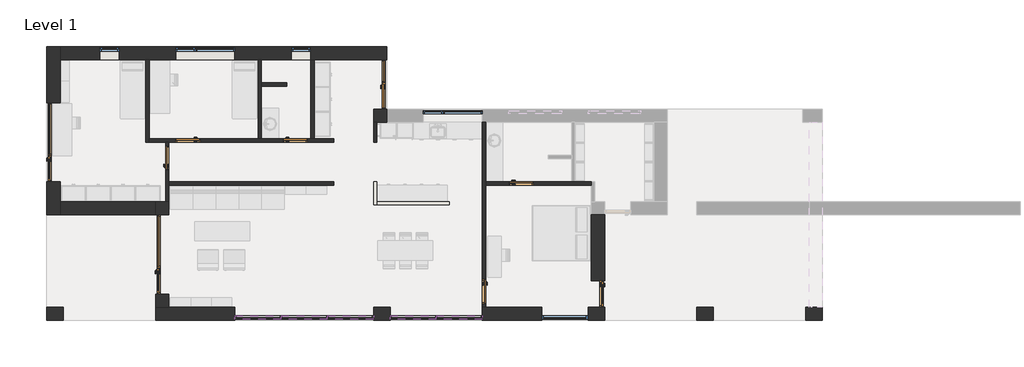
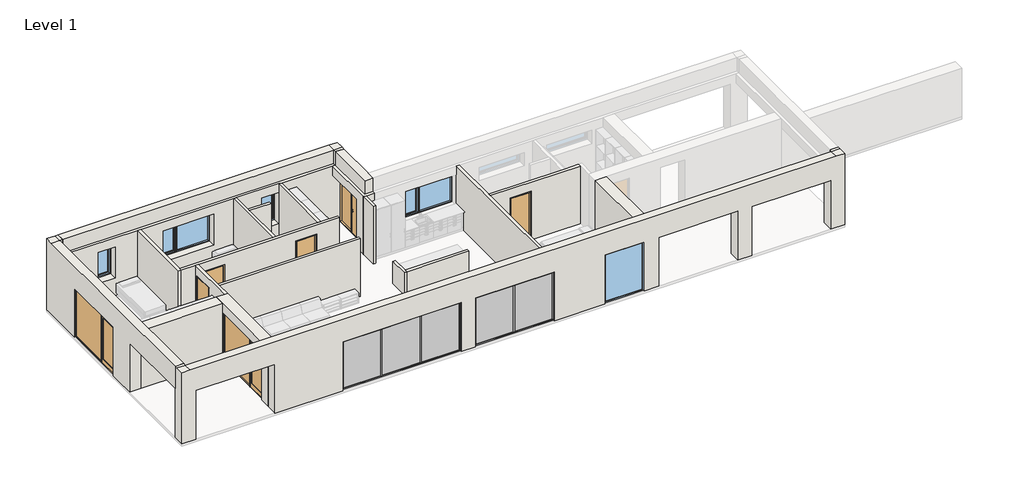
# One storey, part 1 of 2: 19 walls, 17 members, 9 doors, 5 plates, 5 windows.
"""IFC4 building model written with IfcOpenShell, lengths in millimetres."""

from ifc_helpers import new_model, si_unit, origin, origin_with_axes, place, context, project, spatial, polyline, outline, extrude, faceted_brep, transform, mapped, element, save
from components import door_1800x2200_mm_7a9b0269, ext_door_window_assembly_glass_2880x2200_mm_8e24472b, ext_single_flush_out_glass_960x2200_mm_6190eac3, int_single_flush1_900x2200_mm_083ae047, int_single_flush1_900x2200_mm_924e3177, rectangular_mullion_exterior_50x115mm_b31c03e9, rectangular_mullion_exterior_50x115mm_eaa21abb, rectangular_mullion_exterior_50x115mm_593a1a29, system_panel_exterior_glass_22mm_baca3ab9, system_panel_exterior_glass_22mm_266c4f93, fixed_1680x2200_mm_e3bfc0e5, single_light_720x1400_mm_50d61ae6, window_assembly_individual_2160x1400_mm_9c06a6f2

model = new_model("IFC4")

# Units and contexts
model_context = context("Model", 3, world=origin())
ifc_project = project(units=[si_unit("LENGTHUNIT", "METRE", prefix="MILLI")], contexts=[model_context])

# Site, building, storey
site = spatial("IfcSite", under=ifc_project)
building = spatial("IfcBuilding", under=site)
storey = spatial("IfcBuildingStorey", under=building, Name="Level 1", Elevation=0.0)

# Doors
placement = place(None, origin())
door_1800x2200_mm_shape = door_1800x2200_mm_7a9b0269(model_context)
element("IfcDoor", 1, ObjectType="Ext. Door inw. Window Assembly : 1800x2200 mm", at=placement, inside=storey, context=model_context, shape_type="MappedRepresentation", body=[
    mapped(door_1800x2200_mm_shape, transform((12120.0, 8580.0, 0.0), x_axis=(0.0, -1.0, 0.0), y_axis=(1.0, 0.0, 0.0), z_axis=(0.0, 0.0, 1.0))),
])
ext_door_window_assembly_glass_2880x2200_mm_shape = ext_door_window_assembly_glass_2880x2200_mm_8e24472b(model_context)
element("IfcDoor", 2, ObjectType="Ext. Door Window Assembly - Glass : 2880x2200 mm", at=placement, inside=storey, context=model_context, shape_type="MappedRepresentation", body=[
    mapped(ext_door_window_assembly_glass_2880x2200_mm_shape, transform((4200.0, 2400.0, 0.0), x_axis=(0.0, -1.0, 0.0), y_axis=(1.0, 0.0, 0.0), z_axis=(0.0, 0.0, 1.0))),
])
element("IfcDoor", 3, ObjectType="Ext. Door Window Assembly - Glass : 2880x2200 mm", at=placement, inside=storey, context=model_context, shape_type="MappedRepresentation", body=[
    mapped(ext_door_window_assembly_glass_2880x2200_mm_shape, transform((240.0, 6480.0, 0.0), x_axis=(0.0, -1.0, 0.0), y_axis=(1.0, 0.0, 0.0), z_axis=(0.0, 0.0, 1.0))),
])
ext_single_flush_out_glass_960x2200_mm_shape = ext_single_flush_out_glass_960x2200_mm_6190eac3(model_context)
element("IfcDoor", 4, ObjectType="Ext. Single-Flush out - Glass : 960x2200 mm", at=placement, inside=storey, context=model_context, shape_type="MappedRepresentation", body=[
    mapped(ext_single_flush_out_glass_960x2200_mm_shape, transform((20040.0, 960.0, 0.0), x_axis=(0.0, -1.0, 0.0), y_axis=(1.0, 0.0, 0.0), z_axis=(0.0, 0.0, 1.0))),
])
int_single_flush1_900x2200_mm_shape = int_single_flush1_900x2200_mm_083ae047(model_context)
element("IfcDoor", 5, ObjectType="Int. Single-Flush1 : 900x2200 mm", at=placement, inside=storey, context=model_context, shape_type="MappedRepresentation", body=[
    mapped(int_single_flush1_900x2200_mm_shape, transform((4380.0, 5910.0, 0.0), x_axis=(0.0, 1.0, 0.0), y_axis=(-1.0, 0.0, 0.0), z_axis=(0.0, 0.0, 1.0))),
])
element("IfcDoor", 6, ObjectType="Int. Single-Flush1 : 900x2200 mm", at=placement, inside=storey, context=model_context, shape_type="MappedRepresentation", body=[
    mapped(int_single_flush1_900x2200_mm_shape, transform((9030.0, 6540.0, 0.0), x_axis=(1.0, 0.0, 0.0), y_axis=(0.0, 1.0, 0.0), z_axis=(0.0, 0.0, 1.0))),
])
element("IfcDoor", 7, ObjectType="Int. Single-Flush1 : 900x2200 mm", at=placement, inside=storey, context=model_context, shape_type="MappedRepresentation", body=[
    mapped(int_single_flush1_900x2200_mm_shape, transform((17250.0, 4980.0, 0.0), x_axis=(1.0, 0.0, 0.0), y_axis=(0.0, 1.0, 0.0), z_axis=(0.0, 0.0, 1.0))),
])
element("IfcDoor", 8, ObjectType="Int. Single-Flush1 : 900x2200 mm", at=placement, inside=storey, context=model_context, shape_type="MappedRepresentation", body=[
    mapped(int_single_flush1_900x2200_mm_shape, transform((15900.0, 1050.0, 0.0), x_axis=(0.0, -1.0, 0.0), y_axis=(1.0, 0.0, 0.0), z_axis=(0.0, 0.0, 1.0))),
])
int_single_flush1_900x2200_mm_2_shape = int_single_flush1_900x2200_mm_924e3177(model_context)
element("IfcDoor", 9, ObjectType="Int. Single-Flush1 : 900x2200 mm", at=placement, inside=storey, context=model_context, shape_type="MappedRepresentation", body=[
    mapped(int_single_flush1_900x2200_mm_2_shape, transform((5130.0, 6540.0, 0.0), x_axis=(-1.0, 0.0, 0.0), y_axis=(0.0, -1.0, 0.0), z_axis=(0.0, 0.0, 1.0))),
])

# Members
rectangular_mullion_exterior_50x115mm_shape = rectangular_mullion_exterior_50x115mm_b31c03e9(model_context)
element("IfcMember", 10, ObjectType="Rectangular Mullion : Exterior - 50x115mm", at=placement, inside=storey, context=model_context, shape_type="MappedRepresentation", body=[
    mapped(rectangular_mullion_exterior_50x115mm_shape, transform((6840.0, 50.0, 2200.0), x_axis=(0.0, 0.0, 1.0), y_axis=(0.0, 1.0, 0.0), z_axis=(-1.0, 0.0, 0.0))),
])
element("IfcMember", 11, ObjectType="Rectangular Mullion : Exterior - 50x115mm", at=placement, inside=storey, context=model_context, shape_type="MappedRepresentation", body=[
    mapped(rectangular_mullion_exterior_50x115mm_shape, transform((12480.0, 50.0, 2200.0), x_axis=(0.0, 0.0, 1.0), y_axis=(0.0, 1.0, 0.0), z_axis=(-1.0, 0.0, 0.0))),
])
element("IfcMember", 12, ObjectType="Rectangular Mullion : Exterior - 50x115mm", at=placement, inside=storey, context=model_context, shape_type="MappedRepresentation", body=[
    mapped(rectangular_mullion_exterior_50x115mm_shape, transform((11880.0, 50.0, 0.0), x_axis=(0.0, 0.0, -1.0), y_axis=(0.0, 1.0, 0.0), z_axis=(1.0, 0.0, 0.0))),
])
element("IfcMember", 13, ObjectType="Rectangular Mullion : Exterior - 50x115mm", at=placement, inside=storey, context=model_context, shape_type="MappedRepresentation", body=[
    mapped(rectangular_mullion_exterior_50x115mm_shape, transform((15840.0, 50.0, 0.0), x_axis=(0.0, 0.0, -1.0), y_axis=(0.0, 1.0, 0.0), z_axis=(1.0, 0.0, 0.0))),
])
rectangular_mullion_exterior_50x115mm_2_shape = rectangular_mullion_exterior_50x115mm_eaa21abb(model_context)
element("IfcMember", 14, ObjectType="Rectangular Mullion : Exterior - 50x115mm", at=placement, inside=storey, context=model_context, shape_type="MappedRepresentation", body=[
    mapped(rectangular_mullion_exterior_50x115mm_2_shape, transform((8520.0, 50.0, 50.0), x_axis=(-1.0, 0.0, 0.0), y_axis=(0.0, 1.0, 0.0), z_axis=(0.0, 0.0, -1.0))),
])
element("IfcMember", 15, ObjectType="Rectangular Mullion : Exterior - 50x115mm", at=placement, inside=storey, context=model_context, shape_type="MappedRepresentation", body=[
    mapped(rectangular_mullion_exterior_50x115mm_2_shape, transform((10200.0, 50.0, 50.0), x_axis=(-1.0, 0.0, 0.0), y_axis=(0.0, 1.0, 0.0), z_axis=(0.0, 0.0, -1.0))),
])
element("IfcMember", 16, ObjectType="Rectangular Mullion : Exterior - 50x115mm", at=placement, inside=storey, context=model_context, shape_type="MappedRepresentation", body=[
    mapped(rectangular_mullion_exterior_50x115mm_2_shape, transform((14160.0, 50.0, 50.0), x_axis=(-1.0, 0.0, 0.0), y_axis=(0.0, 1.0, 0.0), z_axis=(0.0, 0.0, -1.0))),
])
element("IfcMember", 17, ObjectType="Rectangular Mullion : Exterior - 50x115mm", at=placement, inside=storey, context=model_context, shape_type="MappedRepresentation", body=[
    mapped(rectangular_mullion_exterior_50x115mm_shape, transform((8520.0, 50.0, 0.0), x_axis=(0.0, 0.0, -1.0), y_axis=(0.0, 1.0, 0.0), z_axis=(1.0, 0.0, 0.0))),
])
element("IfcMember", 18, ObjectType="Rectangular Mullion : Exterior - 50x115mm", at=placement, inside=storey, context=model_context, shape_type="MappedRepresentation", body=[
    mapped(rectangular_mullion_exterior_50x115mm_shape, transform((14160.0, 50.0, 0.0), x_axis=(0.0, 0.0, -1.0), y_axis=(0.0, 1.0, 0.0), z_axis=(1.0, 0.0, 0.0))),
])
element("IfcMember", 19, ObjectType="Rectangular Mullion : Exterior - 50x115mm", at=placement, inside=storey, context=model_context, shape_type="MappedRepresentation", body=[
    mapped(rectangular_mullion_exterior_50x115mm_shape, transform((10200.0, 50.0, 0.0), x_axis=(0.0, 0.0, -1.0), y_axis=(0.0, 1.0, 0.0), z_axis=(1.0, 0.0, 0.0))),
])
element("IfcMember", 20, ObjectType="Rectangular Mullion : Exterior - 50x115mm", at=placement, inside=storey, context=model_context, shape_type="MappedRepresentation", body=[
    mapped(rectangular_mullion_exterior_50x115mm_shape, transform((8520.0, 50.0, 2200.0), x_axis=(0.0, 0.0, 1.0), y_axis=(0.0, 1.0, 0.0), z_axis=(-1.0, 0.0, 0.0))),
])
element("IfcMember", 21, ObjectType="Rectangular Mullion : Exterior - 50x115mm", at=placement, inside=storey, context=model_context, shape_type="MappedRepresentation", body=[
    mapped(rectangular_mullion_exterior_50x115mm_shape, transform((10200.0, 50.0, 2200.0), x_axis=(0.0, 0.0, 1.0), y_axis=(0.0, 1.0, 0.0), z_axis=(-1.0, 0.0, 0.0))),
])
element("IfcMember", 22, ObjectType="Rectangular Mullion : Exterior - 50x115mm", at=placement, inside=storey, context=model_context, shape_type="MappedRepresentation", body=[
    mapped(rectangular_mullion_exterior_50x115mm_shape, transform((14160.0, 50.0, 2200.0), x_axis=(0.0, 0.0, 1.0), y_axis=(0.0, 1.0, 0.0), z_axis=(-1.0, 0.0, 0.0))),
])
rectangular_mullion_exterior_50x115mm_3_shape = rectangular_mullion_exterior_50x115mm_593a1a29(model_context)
element("IfcMember", 23, ObjectType="Rectangular Mullion : Exterior - 50x115mm", at=placement, inside=storey, context=model_context, shape_type="MappedRepresentation", body=[
    mapped(rectangular_mullion_exterior_50x115mm_3_shape, transform((11880.0, 50.0, 2150.0), x_axis=(1.0, 0.0, 0.0), y_axis=(0.0, 1.0, 0.0), z_axis=(0.0, 0.0, 1.0))),
])
element("IfcMember", 24, ObjectType="Rectangular Mullion : Exterior - 50x115mm", at=placement, inside=storey, context=model_context, shape_type="MappedRepresentation", body=[
    mapped(rectangular_mullion_exterior_50x115mm_3_shape, transform((15840.0, 50.0, 2150.0), x_axis=(1.0, 0.0, 0.0), y_axis=(0.0, 1.0, 0.0), z_axis=(0.0, 0.0, 1.0))),
])
element("IfcMember", 25, ObjectType="Rectangular Mullion : Exterior - 50x115mm", at=placement, inside=storey, context=model_context, shape_type="MappedRepresentation", body=[
    mapped(rectangular_mullion_exterior_50x115mm_3_shape, transform((6840.0, 50.0, 50.0), x_axis=(-1.0, 0.0, 0.0), y_axis=(0.0, 1.0, 0.0), z_axis=(0.0, 0.0, -1.0))),
])
element("IfcMember", 26, ObjectType="Rectangular Mullion : Exterior - 50x115mm", at=placement, inside=storey, context=model_context, shape_type="MappedRepresentation", body=[
    mapped(rectangular_mullion_exterior_50x115mm_3_shape, transform((12480.0, 50.0, 50.0), x_axis=(-1.0, 0.0, 0.0), y_axis=(0.0, 1.0, 0.0), z_axis=(0.0, 0.0, -1.0))),
])

# Plates
system_panel_exterior_glass_22mm_shape = system_panel_exterior_glass_22mm_baca3ab9(model_context)
element("IfcPlate", 27, ObjectType="System Panel : Exterior - Glass 22mm", at=placement, inside=storey, context=model_context, shape_type="MappedRepresentation", body=[
    mapped(system_panel_exterior_glass_22mm_shape, transform((11027.5, 50.0, 50.0), x_axis=(-1.0, 0.0, 0.0), y_axis=(0.0, -1.0, 0.0), z_axis=(0.0, 0.0, 1.0))),
])
element("IfcPlate", 28, ObjectType="System Panel : Exterior - Glass 22mm", at=placement, inside=storey, context=model_context, shape_type="MappedRepresentation", body=[
    mapped(system_panel_exterior_glass_22mm_shape, transform((7692.5, 50.0, 50.0), x_axis=(-1.0, 0.0, 0.0), y_axis=(0.0, -1.0, 0.0), z_axis=(0.0, 0.0, 1.0))),
])
element("IfcPlate", 29, ObjectType="System Panel : Exterior - Glass 22mm", at=placement, inside=storey, context=model_context, shape_type="MappedRepresentation", body=[
    mapped(system_panel_exterior_glass_22mm_shape, transform((14987.5, 50.0, 50.0), x_axis=(-1.0, 0.0, 0.0), y_axis=(0.0, -1.0, 0.0), z_axis=(0.0, 0.0, 1.0))),
])
element("IfcPlate", 30, ObjectType="System Panel : Exterior - Glass 22mm", at=placement, inside=storey, context=model_context, shape_type="MappedRepresentation", body=[
    mapped(system_panel_exterior_glass_22mm_shape, transform((13332.5, 50.0, 50.0), x_axis=(-1.0, 0.0, 0.0), y_axis=(0.0, -1.0, 0.0), z_axis=(0.0, 0.0, 1.0))),
])
system_panel_exterior_glass_22mm_2_shape = system_panel_exterior_glass_22mm_266c4f93(model_context)
element("IfcPlate", 31, ObjectType="System Panel : Exterior - Glass 22mm", at=placement, inside=storey, context=model_context, shape_type="MappedRepresentation", body=[
    mapped(system_panel_exterior_glass_22mm_2_shape, transform((9360.0, 50.0, 50.0), x_axis=(-1.0, 0.0, 0.0), y_axis=(0.0, -1.0, 0.0), z_axis=(0.0, 0.0, 1.0))),
])

# Walls
element("IfcWall", 32, ObjectType="Generic - 120mm (Interior)", at=placement, inside=storey, context=model_context, shape_type="Brep", body=[
    faceted_brep([(3600.0, 9480.0, 0.0), (3600.0, 6480.0, 0.0), (3600.0, 6480.0, 2600.0), (3600.0, 9480.0, 2600.0), (3720.0, 9480.0, 0.0), (3720.0, 9480.0, 2600.0), (3720.0, 6600.0, 2600.0), (3720.0, 6480.0, 2600.0), (3720.0, 6480.0, 0.0), (3720.0, 6600.0, 0.0)], [[[0, 1, 2, 3]], [[4, 5, 6, 7, 8, 9]], [[1, 0, 4, 9, 8]], [[2, 1, 8, 7]], [[0, 3, 5, 4]], [[3, 2, 7, 6, 5]]]),
])
element("IfcWall", 33, ObjectType="Generic - 120mm (Interior)", at=placement, inside=storey, context=model_context, shape_type="Brep", body=[
    faceted_brep([(10440.0, 6480.0, 0.0), (10440.0, 6480.0, 2600.0), (4440.0, 6480.0, 2600.0), (4320.0, 6480.0, 2600.0), (3720.0, 6480.0, 2600.0), (3720.0, 6480.0, 0.0), (4320.0, 6480.0, 0.0), (4440.0, 6480.0, 0.0), (4680.0, 6480.0, 0.0), (4680.0, 6480.0, 2200.0), (5580.0, 6480.0, 2200.0), (5580.0, 6480.0, 0.0), (8580.0, 6480.0, 0.0), (8580.0, 6480.0, 2200.0), (9480.0, 6480.0, 2200.0), (9480.0, 6480.0, 0.0), (10440.0, 6600.0, 2600.0), (10440.0, 6600.0, 0.0), (9720.0, 6600.0, 0.0), (9600.0, 6600.0, 0.0), (9480.0, 6600.0, 0.0), (9480.0, 6600.0, 2200.0), (8580.0, 6600.0, 2200.0), (8580.0, 6600.0, 0.0), (7800.0, 6600.0, 0.0), (7680.0, 6600.0, 0.0), (5580.0, 6600.0, 0.0), (5580.0, 6600.0, 2200.0), (4680.0, 6600.0, 2200.0), (4680.0, 6600.0, 0.0), (3720.0, 6600.0, 0.0), (3720.0, 6600.0, 2600.0), (7680.0, 6600.0, 2600.0), (7800.0, 6600.0, 2600.0), (9600.0, 6600.0, 2600.0), (9720.0, 6600.0, 2600.0)], [[[0, 1, 2, 3, 4, 5, 6, 7, 8, 9, 10, 11, 12, 13, 14, 15]], [[16, 17, 18, 19, 20, 21, 22, 23, 24, 25, 26, 27, 28, 29, 30, 31, 32, 33, 34, 35]], [[17, 0, 15, 20, 19, 18]], [[5, 30, 29, 8, 7, 6]], [[23, 12, 11, 26, 25, 24]], [[1, 0, 17, 16]], [[5, 4, 31, 30]], [[14, 21, 20, 15]], [[21, 14, 13, 22]], [[22, 13, 12, 23]], [[28, 9, 8, 29]], [[9, 28, 27, 10]], [[10, 27, 26, 11]], [[4, 3, 2, 1, 16, 35, 34, 33, 32, 31]]]),
])
element("IfcWall", 34, ObjectType="Generic - 120mm (Interior)", at=placement, inside=storey, context=model_context, shape_type="Brep", body=[
    faceted_brep([(4440.0, 6480.0, 0.0), (4440.0, 6480.0, 2600.0), (4440.0, 5040.0, 2600.0), (4440.0, 4920.0, 2600.0), (4440.0, 4320.0, 2600.0), (4440.0, 4320.0, 0.0), (4440.0, 4920.0, 0.0), (4440.0, 5040.0, 0.0), (4440.0, 5460.0, 0.0), (4440.0, 5460.0, 2200.0), (4440.0, 6360.0, 2200.0), (4440.0, 6360.0, 0.0), (4320.0, 6480.0, 2600.0), (4320.0, 6480.0, 0.0), (4320.0, 6360.0, 0.0), (4320.0, 6360.0, 2200.0), (4320.0, 5460.0, 2200.0), (4320.0, 5460.0, 0.0), (4320.0, 4320.0, 0.0), (4320.0, 4320.0, 2600.0)], [[[0, 1, 2, 3, 4, 5, 6, 7, 8, 9, 10, 11]], [[12, 13, 14, 15, 16, 17, 18, 19]], [[13, 0, 11, 14]], [[5, 18, 17, 8, 7, 6]], [[1, 0, 13, 12]], [[5, 4, 19, 18]], [[10, 15, 14, 11]], [[15, 10, 9, 16]], [[16, 9, 8, 17]], [[4, 3, 2, 1, 12, 19]]]),
])
element("IfcWall", 35, ObjectType="Generic - 120mm (Interior)", at=placement, inside=storey, context=model_context, shape_type="Brep", body=[
    faceted_brep([(7800.0, 6600.0, 0.0), (7800.0, 8520.0, 0.0), (7800.0, 8640.0, 0.0), (7800.0, 9480.0, 0.0), (7800.0, 9480.0, 2600.0), (7800.0, 8640.0, 2600.0), (7800.0, 8520.0, 2600.0), (7800.0, 6600.0, 2600.0), (7680.0, 6600.0, 0.0), (7680.0, 6600.0, 2600.0), (7680.0, 9480.0, 2600.0), (7680.0, 9480.0, 0.0)], [[[0, 1, 2, 3, 4, 5, 6, 7]], [[8, 9, 10, 11]], [[3, 2, 1, 0, 8, 11]], [[0, 7, 9, 8]], [[4, 3, 11, 10]], [[7, 6, 5, 4, 10, 9]]]),
])
element("IfcWall", 36, ObjectType="Generic - 120mm (Interior)", at=placement, inside=storey, context=model_context, shape_type="Brep", body=[
    faceted_brep([(9720.0, 6600.0, 0.0), (9720.0, 9480.0, 0.0), (9720.0, 9480.0, 2600.0), (9720.0, 6600.0, 2600.0), (9600.0, 6600.0, 0.0), (9600.0, 6600.0, 2600.0), (9600.0, 9480.0, 2600.0), (9600.0, 9480.0, 2200.0), (9600.0, 9480.0, 800.0), (9600.0, 9480.0, 0.0)], [[[0, 1, 2, 3]], [[4, 5, 6, 7, 8, 9]], [[1, 0, 4, 9]], [[0, 3, 5, 4]], [[2, 1, 9, 8, 7, 6]], [[3, 2, 6, 5]]]),
])
element("IfcWall", 37, ObjectType="Generic - 120mm (Interior)", at=placement, inside=storey, context=model_context, shape_type="Brep", body=[
    faceted_brep([(15960.0, 7200.0, 0.0), (15960.0, 7200.0, 2600.0), (15960.0, 5040.0, 2600.0), (15960.0, 4920.0, 2600.0), (15960.0, 480.0, 2600.0), (15960.0, 480.0, 0.0), (15960.0, 600.0, 0.0), (15960.0, 600.0, 2200.0), (15960.0, 1500.0, 2200.0), (15960.0, 1500.0, 0.0), (15960.0, 4920.0, 0.0), (15960.0, 5040.0, 0.0), (15840.0, 7200.0, 2600.0), (15840.0, 7200.0, 2200.0), (15840.0, 7200.0, 800.0), (15840.0, 7200.0, 0.0), (15840.0, 1500.0, 0.0), (15840.0, 1500.0, 2200.0), (15840.0, 600.0, 2200.0), (15840.0, 600.0, 0.0), (15840.0, 480.0, 0.0), (15840.0, 480.0, 2200.0), (15840.0, 480.0, 2600.0)], [[[0, 1, 2, 3, 4, 5, 6, 7, 8, 9, 10, 11]], [[12, 13, 14, 15, 16, 17, 18, 19, 20, 21, 22]], [[5, 20, 19, 6]], [[15, 0, 11, 10, 9, 16]], [[1, 0, 15, 14, 13, 12]], [[5, 4, 22, 21, 20]], [[18, 7, 6, 19]], [[7, 18, 17, 8]], [[8, 17, 16, 9]], [[4, 3, 2, 1, 12, 22]]]),
])
element("IfcWall", 38, ObjectType="Generic - 120mm (Interior)", at=placement, inside=storey, context=model_context, shape_type="Brep", body=[
    faceted_brep([(19800.0, 5040.0, 2600.0), (19800.0, 5040.0, 0.0), (19200.0, 5040.0, 0.0), (19080.0, 5040.0, 0.0), (17700.0, 5040.0, 0.0), (17700.0, 5040.0, 2200.0), (16800.0, 5040.0, 2200.0), (16800.0, 5040.0, 0.0), (15960.0, 5040.0, 0.0), (15960.0, 5040.0, 2600.0), (19080.0, 5040.0, 2600.0), (19200.0, 5040.0, 2600.0), (19800.0, 4920.0, 0.0), (19800.0, 4920.0, 2600.0), (15960.0, 4920.0, 2600.0), (15960.0, 4920.0, 0.0), (16800.0, 4920.0, 0.0), (16800.0, 4920.0, 2200.0), (17700.0, 4920.0, 2200.0), (17700.0, 4920.0, 0.0)], [[[0, 1, 2, 3, 4, 5, 6, 7, 8, 9, 10, 11]], [[12, 13, 14, 15, 16, 17, 18, 19]], [[1, 12, 19, 4, 3, 2]], [[15, 8, 7, 16]], [[1, 0, 13, 12]], [[9, 8, 15, 14]], [[18, 5, 4, 19]], [[5, 18, 17, 6]], [[6, 17, 16, 7]], [[0, 11, 10, 9, 14, 13]]]),
])
element("IfcWall", 39, ObjectType="Generic - 120mm (Interior)", at=placement, inside=storey, context=model_context, shape_type="SweptSolid", body=[
    extrude(outline(polyline([(8720.0, 8520.0), (7800.0, 8520.0), (7800.0, 8640.0), (8720.0, 8640.0), (8720.0, 8520.0)])), origin_with_axes(), (0.0, 0.0, 1.0), 2600.0),
])
element("IfcWall", 40, ObjectType="Generic - 120mm (Interior)", at=placement, inside=storey, context=model_context, shape_type="SweptSolid", body=[
    extrude(outline(polyline([(10440.0, 4920.0), (4440.0, 4920.0), (4440.0, 5040.0), (10440.0, 5040.0), (10440.0, 4920.0)])), origin_with_axes(), (0.0, 0.0, 1.0), 2600.0),
])
element("IfcWall", 41, ObjectType="Generic - 120mm (Interior)", at=placement, inside=storey, context=model_context, shape_type="Brep", body=[
    faceted_brep([(11880.0, 5040.0, 0.0), (11880.0, 4200.0, 0.0), (11880.0, 4200.0, 1000.0), (11880.0, 5040.0, 1000.0), (12000.0, 5040.0, 0.0), (12000.0, 5040.0, 1000.0), (12000.0, 4320.0, 1000.0), (12000.0, 4200.0, 1000.0), (12000.0, 4200.0, 0.0), (12000.0, 4320.0, 0.0)], [[[0, 1, 2, 3]], [[4, 5, 6, 7, 8, 9]], [[1, 0, 4, 9, 8]], [[3, 2, 7, 6, 5]], [[0, 3, 5, 4]], [[2, 1, 8, 7]]]),
])
element("IfcWall", 42, ObjectType="Generic - 120mm (Interior)", at=placement, inside=storey, context=model_context, shape_type="SweptSolid", body=[
    extrude(outline(polyline([(14640.0, 4200.0), (12000.0, 4200.0), (12000.0, 4320.0), (14640.0, 4320.0), (14640.0, 4200.0)])), origin_with_axes(), (0.0, 0.0, 1.0), 1000.0),
])
element("IfcWall", 43, ObjectType="Generic - 120mm (Interior)", at=placement, inside=storey, context=model_context, shape_type="SweptSolid", body=[
    extrude(outline(polyline([(11880.0, 6480.0), (11880.0, 7200.0), (12000.0, 7200.0), (12000.0, 6480.0), (11880.0, 6480.0)])), origin_with_axes(), (0.0, 0.0, 1.0), 2600.0),
])
element("IfcWall", 44, ObjectType="Generic - 480mm (Exterior)", at=placement, inside=storey, context=model_context, shape_type="Brep", body=[
    faceted_brep([(480.0, 9960.0, 0.0), (480.0, 9960.0, 3200.0), (480.0, 9600.0, 3200.0), (480.0, 9600.0, 2600.0), (480.0, 9480.0, 2600.0), (480.0, 4320.0, 2600.0), (480.0, 3840.0, 2600.0), (480.0, 480.0, 2600.0), (480.0, 480.0, 2200.0), (480.0, 3840.0, 2200.0), (480.0, 3840.0, 0.0), (480.0, 4320.0, 0.0), (480.0, 5040.0, 0.0), (480.0, 5040.0, 2200.0), (480.0, 7920.0, 2200.0), (480.0, 7920.0, 0.0), (480.0, 9480.0, 0.0), (0.0, 9960.0, 3200.0), (0.0, 9960.0, 0.0), (0.0, 7920.0, 0.0), (0.0, 7920.0, 2200.0), (0.0, 5040.0, 2200.0), (0.0, 5040.0, 0.0), (0.0, 3840.0, 0.0), (0.0, 3840.0, 2200.0), (0.0, 480.0, 2200.0), (0.0, 480.0, 3200.0), (0.0, 9600.0, 3200.0), (360.0, 9960.0, 3200.0), (360.0, 480.0, 2600.0), (360.0, 480.0, 3200.0), (360.0, 9600.0, 3200.0), (360.0, 9600.0, 2600.0)], [[[0, 1, 2, 3, 4, 5, 6, 7, 8, 9, 10, 11, 12, 13, 14, 15, 16]], [[17, 18, 19, 20, 21, 22, 23, 24, 25, 26, 27]], [[1, 0, 18, 17, 28]], [[21, 13, 12, 22]], [[13, 21, 20, 14]], [[14, 20, 19, 15]], [[18, 0, 16, 15, 19]], [[10, 23, 22, 12, 11]], [[9, 8, 25, 24]], [[10, 9, 24, 23]], [[8, 7, 29, 30, 26, 25]], [[3, 2, 31, 32]], [[27, 26, 30, 31]], [[31, 30, 29, 32]], [[2, 1, 28, 31]], [[17, 27, 31, 28]], [[3, 32, 29, 7, 6, 5, 4]]]),
])
element("IfcWall", 45, ObjectType="Generic - 480mm (Exterior)", at=placement, inside=storey, context=model_context, shape_type="Brep", body=[
    faceted_brep([(480.0, 9480.0, 0.0), (3600.0, 9480.0, 0.0), (3720.0, 9480.0, 0.0), (7680.0, 9480.0, 0.0), (7800.0, 9480.0, 0.0), (9600.0, 9480.0, 0.0), (9720.0, 9480.0, 0.0), (12360.0, 9480.0, 0.0), (12360.0, 9480.0, 2200.0), (12360.0, 9480.0, 3200.0), (12000.0, 9480.0, 3200.0), (12000.0, 9480.0, 2600.0), (11880.0, 9480.0, 2600.0), (9720.0, 9480.0, 2600.0), (9600.0, 9480.0, 2600.0), (7800.0, 9480.0, 2600.0), (7680.0, 9480.0, 2600.0), (3720.0, 9480.0, 2600.0), (3600.0, 9480.0, 2600.0), (480.0, 9480.0, 2600.0), (8880.0, 9480.0, 800.0), (8880.0, 9480.0, 2200.0), (9600.0, 9480.0, 2200.0), (9600.0, 9480.0, 800.0), (6840.0, 9480.0, 2200.0), (6840.0, 9480.0, 800.0), (4680.0, 9480.0, 800.0), (4680.0, 9480.0, 2200.0), (1920.0, 9480.0, 800.0), (1920.0, 9480.0, 2200.0), (2640.0, 9480.0, 2200.0), (2640.0, 9480.0, 800.0), (12360.0, 9960.0, 0.0), (480.0, 9960.0, 0.0), (480.0, 9960.0, 3200.0), (12000.0, 9960.0, 3200.0), (12360.0, 9960.0, 3200.0), (8880.0, 9960.0, 2200.0), (8880.0, 9960.0, 800.0), (9600.0, 9960.0, 800.0), (9600.0, 9960.0, 2200.0), (6840.0, 9960.0, 800.0), (6840.0, 9960.0, 2200.0), (4680.0, 9960.0, 2200.0), (4680.0, 9960.0, 800.0), (1920.0, 9960.0, 2200.0), (1920.0, 9960.0, 800.0), (2640.0, 9960.0, 800.0), (2640.0, 9960.0, 2200.0), (480.0, 9600.0, 2600.0), (480.0, 9600.0, 3200.0), (12360.0, 9600.0, 3200.0), (12000.0, 9600.0, 2600.0), (12000.0, 9600.0, 3200.0)], [[[0, 1, 2, 3, 4, 5, 6, 7, 8, 9, 10, 11, 12, 13, 14, 15, 16, 17, 18, 19], [20, 21, 22, 23], [24, 25, 26, 27], [28, 29, 30, 31]], [[32, 33, 34, 35, 36], [37, 38, 39, 40], [41, 42, 43, 44], [45, 46, 47, 48]], [[7, 6, 5, 4, 3, 2, 1, 0, 33, 32]], [[0, 19, 49, 50, 34, 33]], [[9, 8, 7, 32, 36, 51]], [[20, 38, 37, 21]], [[39, 23, 22, 40]], [[38, 20, 23, 39]], [[41, 25, 24, 42]], [[43, 27, 26, 44]], [[25, 41, 44, 26]], [[28, 46, 45, 29]], [[47, 31, 30, 48]], [[46, 28, 31, 47]], [[40, 22, 21, 37]], [[27, 43, 42, 24]], [[48, 30, 29, 45]], [[50, 49, 52, 53]], [[9, 51, 53, 10]], [[10, 53, 52, 11]], [[34, 50, 53, 35]], [[51, 36, 35, 53]], [[19, 18, 17, 16, 15, 14, 13, 12, 11, 52, 49]]]),
])
element("IfcWall", 46, ObjectType="Generic - 480mm (Exterior)", at=placement, inside=storey, context=model_context, shape_type="Brep", body=[
    faceted_brep([(11880.0, 7200.0, 0.0), (11880.0, 7200.0, 2600.0), (11880.0, 9480.0, 2600.0), (11880.0, 9480.0, 2200.0), (11880.0, 7680.0, 2200.0), (11880.0, 7680.0, 0.0), (12360.0, 7200.0, 2600.0), (12360.0, 7200.0, 0.0), (12360.0, 7680.0, 0.0), (12360.0, 7680.0, 2200.0), (12360.0, 9480.0, 2200.0), (12360.0, 9480.0, 3200.0), (12360.0, 7680.0, 3200.0), (12360.0, 7320.0, 3200.0), (12360.0, 7320.0, 2600.0), (12000.0, 9480.0, 3200.0), (12000.0, 9480.0, 2600.0), (12000.0, 7200.0, 2600.0), (12000.0, 7320.0, 2600.0), (12000.0, 7320.0, 3200.0)], [[[0, 1, 2, 3, 4, 5]], [[6, 7, 8, 9, 10, 11, 12, 13, 14]], [[7, 0, 5, 8]], [[15, 11, 10, 3, 2, 16]], [[4, 9, 8, 5]], [[9, 4, 3, 10]], [[1, 0, 7, 6, 17]], [[15, 16, 18, 19]], [[11, 15, 19, 13, 12]], [[13, 19, 18, 14]], [[16, 2, 1, 17, 6, 14, 18]]]),
])
element("IfcWall", 47, ObjectType="Generic - 480mm (Exterior)", at=placement, inside=storey, context=model_context, shape_type="Brep", body=[
    faceted_brep([(28200.0, 480.0, 0.0), (27600.0, 480.0, 0.0), (27600.0, 480.0, 2200.0), (24240.0, 480.0, 2200.0), (24240.0, 480.0, 0.0), (23640.0, 480.0, 0.0), (23640.0, 480.0, 2200.0), (20280.0, 480.0, 2200.0), (20280.0, 480.0, 0.0), (19680.0, 480.0, 0.0), (19680.0, 480.0, 2200.0), (18000.0, 480.0, 2200.0), (18000.0, 480.0, 0.0), (15960.0, 480.0, 0.0), (15840.0, 480.0, 0.0), (15840.0, 480.0, 2200.0), (12480.0, 480.0, 2200.0), (12480.0, 480.0, 0.0), (11880.0, 480.0, 0.0), (11880.0, 480.0, 2200.0), (6840.0, 480.0, 2200.0), (6840.0, 480.0, 0.0), (4440.0, 480.0, 0.0), (3960.0, 480.0, 0.0), (3960.0, 480.0, 2200.0), (600.0, 480.0, 2200.0), (600.0, 480.0, 0.0), (0.0, 480.0, 0.0), (0.0, 480.0, 2200.0), (0.0, 480.0, 3200.0), (360.0, 480.0, 3200.0), (360.0, 480.0, 2600.0), (480.0, 480.0, 2600.0), (3960.0, 480.0, 2600.0), (4440.0, 480.0, 2600.0), (15840.0, 480.0, 2600.0), (15960.0, 480.0, 2600.0), (19800.0, 480.0, 2600.0), (20280.0, 480.0, 2600.0), (27720.0, 480.0, 2600.0), (27840.0, 480.0, 2600.0), (27840.0, 480.0, 3200.0), (28200.0, 480.0, 3200.0), (28200.0, 480.0, 2200.0), (27600.0, 0.0, 0.0), (28200.0, 0.0, 0.0), (28200.0, 0.0, 3200.0), (27840.0, 0.0, 3200.0), (360.0, 0.0, 3200.0), (0.0, 0.0, 3200.0), (0.0, 0.0, 0.0), (600.0, 0.0, 0.0), (600.0, 0.0, 2200.0), (3960.0, 0.0, 2200.0), (3960.0, 0.0, 0.0), (6840.0, 0.0, 0.0), (6840.0, 0.0, 2200.0), (11880.0, 0.0, 2200.0), (11880.0, 0.0, 0.0), (12480.0, 0.0, 0.0), (12480.0, 0.0, 2200.0), (15840.0, 0.0, 2200.0), (15840.0, 0.0, 0.0), (18000.0, 0.0, 0.0), (18000.0, 0.0, 2200.0), (19680.0, 0.0, 2200.0), (19680.0, 0.0, 0.0), (20280.0, 0.0, 0.0), (20280.0, 0.0, 2200.0), (23640.0, 0.0, 2200.0), (23640.0, 0.0, 0.0), (24240.0, 0.0, 0.0), (24240.0, 0.0, 2200.0), (27600.0, 0.0, 2200.0), (28200.0, 360.0, 3200.0), (0.0, 360.0, 3200.0), (27840.0, 360.0, 2600.0), (27840.0, 360.0, 3200.0), (360.0, 360.0, 2600.0), (360.0, 360.0, 3200.0)], [[[0, 1, 2, 3, 4, 5, 6, 7, 8, 9, 10, 11, 12, 13, 14, 15, 16, 17, 18, 19, 20, 21, 22, 23, 24, 25, 26, 27, 28, 29, 30, 31, 32, 33, 34, 35, 36, 37, 38, 39, 40, 41, 42, 43]], [[44, 45, 46, 47, 48, 49, 50, 51, 52, 53, 54, 55, 56, 57, 58, 59, 60, 61, 62, 63, 64, 65, 66, 67, 68, 69, 70, 71, 72, 73]], [[65, 10, 9, 66]], [[10, 65, 64, 11]], [[11, 64, 63, 12]], [[57, 19, 18, 58]], [[19, 57, 56, 20]], [[20, 56, 55, 21]], [[61, 15, 14, 62]], [[15, 61, 60, 16]], [[16, 60, 59, 17]], [[1, 0, 45, 44]], [[2, 1, 44, 73]], [[3, 2, 73, 72]], [[4, 3, 72, 71]], [[5, 4, 71, 70]], [[6, 5, 70, 69]], [[7, 6, 69, 68]], [[9, 8, 67, 66]], [[12, 63, 62, 14, 13]], [[58, 18, 17, 59]], [[23, 22, 21, 55, 54]], [[25, 24, 53, 52]], [[26, 25, 52, 51]], [[27, 26, 51, 50]], [[24, 23, 54, 53]], [[8, 7, 68, 67]], [[0, 43, 42, 74, 46, 45]], [[29, 28, 27, 50, 49, 75]], [[41, 40, 76, 77]], [[77, 76, 78, 79]], [[42, 41, 77, 74]], [[47, 46, 74, 77]], [[29, 75, 79, 30]], [[30, 79, 78, 31]], [[77, 79, 48, 47]], [[75, 49, 48, 79]], [[76, 40, 39, 38, 37, 36, 35, 34, 33, 32, 31, 78]]]),
])
element("IfcWall", 48, ObjectType="Generic - 480mm (Exterior)", at=placement, inside=storey, context=model_context, shape_type="Brep", body=[
    faceted_brep([(4440.0, 4320.0, 0.0), (4440.0, 4320.0, 2600.0), (4440.0, 480.0, 2600.0), (4440.0, 480.0, 0.0), (4440.0, 960.0, 0.0), (4440.0, 960.0, 2200.0), (4440.0, 3840.0, 2200.0), (4440.0, 3840.0, 0.0), (3960.0, 4320.0, 2600.0), (3960.0, 4320.0, 0.0), (3960.0, 3840.0, 0.0), (3960.0, 3840.0, 2200.0), (3960.0, 960.0, 2200.0), (3960.0, 960.0, 0.0), (3960.0, 480.0, 0.0), (3960.0, 480.0, 2200.0), (3960.0, 480.0, 2600.0), (3960.0, 3840.0, 2600.0), (4320.0, 4320.0, 0.0), (4320.0, 4320.0, 2600.0)], [[[0, 1, 2, 3, 4, 5, 6, 7]], [[8, 9, 10, 11, 12, 13, 14, 15, 16, 17]], [[9, 18, 0, 7, 10]], [[3, 14, 13, 4]], [[1, 0, 18, 9, 8, 19]], [[12, 5, 4, 13]], [[5, 12, 11, 6]], [[6, 11, 10, 7]], [[14, 3, 2, 16, 15]], [[16, 2, 1, 19, 8, 17]]]),
])
element("IfcWall", 49, ObjectType="Generic - 480mm (Exterior)", at=placement, inside=storey, context=model_context, shape_type="Brep", body=[
    faceted_brep([(3960.0, 4320.0, 0.0), (480.0, 4320.0, 0.0), (480.0, 4320.0, 2600.0), (3960.0, 4320.0, 2600.0), (3960.0, 3840.0, 0.0), (3960.0, 3840.0, 2600.0), (480.0, 3840.0, 2600.0), (480.0, 3840.0, 2200.0), (480.0, 3840.0, 0.0)], [[[0, 1, 2, 3]], [[4, 5, 6, 7, 8]], [[1, 0, 4, 8]], [[0, 3, 5, 4]], [[1, 8, 7, 6, 2]], [[3, 2, 6, 5]]]),
])
element("IfcWall", 50, ObjectType="Generic - 480mm (Exterior)", at=placement, inside=storey, context=model_context, shape_type="Brep", body=[
    faceted_brep([(19800.0, 3840.0, 2600.0), (19800.0, 3840.0, 0.0), (19800.0, 1440.0, 0.0), (19800.0, 1440.0, 2200.0), (19800.0, 480.0, 2200.0), (19800.0, 480.0, 2600.0), (20280.0, 3840.0, 0.0), (20280.0, 3840.0, 2200.0), (20280.0, 3840.0, 2600.0), (20280.0, 480.0, 2600.0), (20280.0, 480.0, 2200.0), (20280.0, 1440.0, 2200.0), (20280.0, 1440.0, 0.0)], [[[0, 1, 2, 3, 4, 5]], [[6, 7, 8, 9, 10, 11, 12]], [[1, 6, 12, 2]], [[1, 0, 8, 7, 6]], [[3, 11, 10, 4]], [[11, 3, 2, 12]], [[9, 5, 4, 10]], [[0, 5, 9, 8]]]),
])

# Windows
fixed_1680x2200_mm_shape = fixed_1680x2200_mm_e3bfc0e5(model_context)
element("IfcWindow", 51, ObjectType="Fixed : 1680x2200 mm", at=placement, inside=storey, context=model_context, shape_type="MappedRepresentation", body=[
    mapped(fixed_1680x2200_mm_shape, transform((18840.0, 240.0, -800.0), x_axis=(-1.0, 0.0, 0.0), y_axis=(0.0, -1.0, 0.0), z_axis=(0.0, 0.0, 1.0))),
])
single_light_720x1400_mm_shape = single_light_720x1400_mm_50d61ae6(model_context)
element("IfcWindow", 52, ObjectType="Single-Light : 720x1400 mm", at=placement, inside=storey, context=model_context, shape_type="MappedRepresentation", body=[
    mapped(single_light_720x1400_mm_shape, transform((2280.0, 9720.0, 0.0), x_axis=(1.0, 0.0, 0.0), y_axis=(0.0, 1.0, 0.0), z_axis=(0.0, 0.0, 1.0))),
])
element("IfcWindow", 53, ObjectType="Single-Light : 720x1400 mm", at=placement, inside=storey, context=model_context, shape_type="MappedRepresentation", body=[
    mapped(single_light_720x1400_mm_shape, transform((9240.0, 9720.0, 0.0), x_axis=(1.0, 0.0, 0.0), y_axis=(0.0, 1.0, 0.0), z_axis=(0.0, 0.0, 1.0))),
])
window_assembly_individual_2160x1400_mm_shape = window_assembly_individual_2160x1400_mm_9c06a6f2(model_context)
element("IfcWindow", 54, ObjectType="Window Assembly Individual : 2160x1400 mm", at=placement, inside=storey, context=model_context, shape_type="MappedRepresentation", body=[
    mapped(window_assembly_individual_2160x1400_mm_shape, transform((5760.0, 9720.0, 0.0), x_axis=(-1.0, 0.0, 0.0), y_axis=(0.0, -1.0, 0.0), z_axis=(0.0, 0.0, 1.0))),
])
element("IfcWindow", 55, ObjectType="Window Assembly Individual : 2160x1400 mm", at=placement, inside=storey, context=model_context, shape_type="MappedRepresentation", body=[
    mapped(window_assembly_individual_2160x1400_mm_shape, transform((14760.0, 7440.0, 0.0), x_axis=(-1.0, 0.0, 0.0), y_axis=(0.0, -1.0, 0.0), z_axis=(0.0, 0.0, 1.0))),
])

save(model, "model.ifc")
